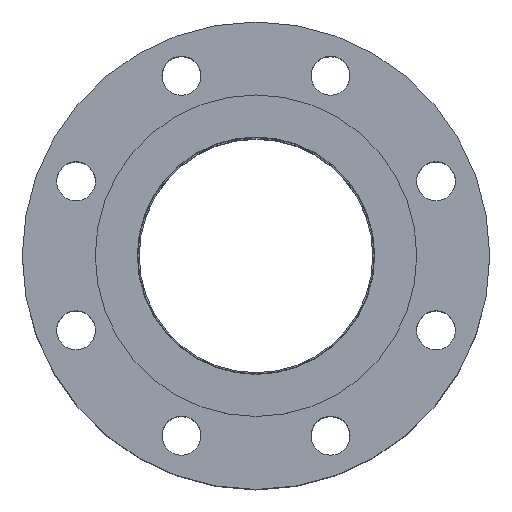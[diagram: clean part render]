
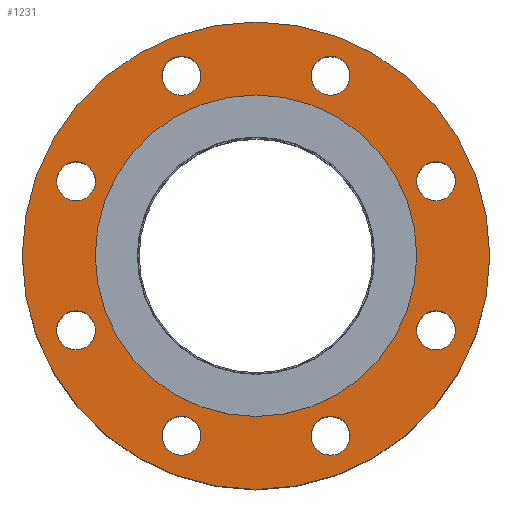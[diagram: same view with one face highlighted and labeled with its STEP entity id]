
A CAD part, top view. The second image highlights one B-rep face of the part: STEP entity #1231.
In plain terms, the highlighted planar face has unit normal (0, 0, 1).
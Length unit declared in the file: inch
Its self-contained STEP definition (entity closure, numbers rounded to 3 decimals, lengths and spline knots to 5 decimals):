
#84=FACE_BOUND('',#331,.T.);
#85=FACE_BOUND('',#332,.T.);
#86=FACE_BOUND('',#333,.T.);
#87=FACE_BOUND('',#334,.T.);
#88=FACE_BOUND('',#335,.T.);
#89=FACE_BOUND('',#336,.T.);
#90=FACE_BOUND('',#337,.T.);
#91=FACE_BOUND('',#338,.T.);
#92=FACE_BOUND('',#339,.T.);
#134=PLANE('',#1404);
#225=FACE_OUTER_BOUND('',#330,.T.);
#330=EDGE_LOOP('',(#957));
#331=EDGE_LOOP('',(#958));
#332=EDGE_LOOP('',(#959));
#333=EDGE_LOOP('',(#960));
#334=EDGE_LOOP('',(#961));
#335=EDGE_LOOP('',(#962));
#336=EDGE_LOOP('',(#963));
#337=EDGE_LOOP('',(#964));
#338=EDGE_LOOP('',(#965));
#339=EDGE_LOOP('',(#966));
#487=CIRCLE('',#1359,0.375);
#489=CIRCLE('',#1362,0.375);
#491=CIRCLE('',#1365,0.375);
#493=CIRCLE('',#1368,0.375);
#495=CIRCLE('',#1371,0.375);
#497=CIRCLE('',#1374,0.375);
#499=CIRCLE('',#1377,0.375);
#501=CIRCLE('',#1380,0.375);
#514=CIRCLE('',#1399,3.095);
#516=CIRCLE('',#1403,4.5);
#627=VERTEX_POINT('',#2134);
#629=VERTEX_POINT('',#2140);
#631=VERTEX_POINT('',#2146);
#633=VERTEX_POINT('',#2152);
#635=VERTEX_POINT('',#2158);
#637=VERTEX_POINT('',#2164);
#639=VERTEX_POINT('',#2170);
#641=VERTEX_POINT('',#2176);
#652=VERTEX_POINT('',#2208);
#654=VERTEX_POINT('',#2215);
#731=EDGE_CURVE('',#627,#627,#487,.T.);
#734=EDGE_CURVE('',#629,#629,#489,.T.);
#737=EDGE_CURVE('',#631,#631,#491,.T.);
#740=EDGE_CURVE('',#633,#633,#493,.T.);
#743=EDGE_CURVE('',#635,#635,#495,.T.);
#746=EDGE_CURVE('',#637,#637,#497,.T.);
#749=EDGE_CURVE('',#639,#639,#499,.T.);
#752=EDGE_CURVE('',#641,#641,#501,.T.);
#768=EDGE_CURVE('',#652,#652,#514,.T.);
#770=EDGE_CURVE('',#654,#654,#516,.T.);
#957=ORIENTED_EDGE('',*,*,#770,.T.);
#958=ORIENTED_EDGE('',*,*,#731,.T.);
#959=ORIENTED_EDGE('',*,*,#734,.T.);
#960=ORIENTED_EDGE('',*,*,#737,.T.);
#961=ORIENTED_EDGE('',*,*,#740,.T.);
#962=ORIENTED_EDGE('',*,*,#743,.T.);
#963=ORIENTED_EDGE('',*,*,#746,.T.);
#964=ORIENTED_EDGE('',*,*,#749,.T.);
#965=ORIENTED_EDGE('',*,*,#752,.T.);
#966=ORIENTED_EDGE('',*,*,#768,.T.);
#1231=ADVANCED_FACE('',(#225,#84,#85,#86,#87,#88,#89,#90,#91,#92),#134,
 .T.);
#1359=AXIS2_PLACEMENT_3D('',#2135,#1615,#1616);
#1362=AXIS2_PLACEMENT_3D('',#2141,#1622,#1623);
#1365=AXIS2_PLACEMENT_3D('',#2147,#1629,#1630);
#1368=AXIS2_PLACEMENT_3D('',#2153,#1636,#1637);
#1371=AXIS2_PLACEMENT_3D('',#2159,#1643,#1644);
#1374=AXIS2_PLACEMENT_3D('',#2165,#1650,#1651);
#1377=AXIS2_PLACEMENT_3D('',#2171,#1657,#1658);
#1380=AXIS2_PLACEMENT_3D('',#2177,#1664,#1665);
#1399=AXIS2_PLACEMENT_3D('',#2210,#1705,#1706);
#1403=AXIS2_PLACEMENT_3D('',#2216,#1713,#1714);
#1404=AXIS2_PLACEMENT_3D('',#2218,#1716,#1717);
#1615=DIRECTION('center_axis',(0.,0.,-1.));
#1616=DIRECTION('ref_axis',(0.707,-0.707,0.));
#1622=DIRECTION('center_axis',(0.,0.,-1.));
#1623=DIRECTION('ref_axis',(0.,-1.,0.));
#1629=DIRECTION('center_axis',(0.,0.,-1.));
#1630=DIRECTION('ref_axis',(-0.707,-0.707,0.));
#1636=DIRECTION('center_axis',(0.,0.,-1.));
#1637=DIRECTION('ref_axis',(-1.,0.,0.));
#1643=DIRECTION('center_axis',(0.,0.,-1.));
#1644=DIRECTION('ref_axis',(-0.707,0.707,0.));
#1650=DIRECTION('center_axis',(0.,0.,-1.));
#1651=DIRECTION('ref_axis',(0.,1.,0.));
#1657=DIRECTION('center_axis',(0.,0.,-1.));
#1658=DIRECTION('ref_axis',(0.707,0.707,0.));
#1664=DIRECTION('center_axis',(0.,0.,-1.));
#1665=DIRECTION('ref_axis',(1.,0.,0.));
#1705=DIRECTION('center_axis',(0.,0.,-1.));
#1706=DIRECTION('ref_axis',(0.,1.,0.));
#1713=DIRECTION('center_axis',(0.,0.,1.));
#1714=DIRECTION('ref_axis',(1.,0.,0.));
#1716=DIRECTION('center_axis',(0.,0.,1.));
#1717=DIRECTION('ref_axis',(1.,0.,0.));
#2134=CARTESIAN_POINT('',(1.1699,3.72971,0.44));
#2135=CARTESIAN_POINT('Origin',(1.43506,3.46455,0.44));
#2140=CARTESIAN_POINT('',(3.46455,1.81006,0.44));
#2141=CARTESIAN_POINT('Origin',(3.46455,1.43506,0.44));
#2146=CARTESIAN_POINT('',(3.72971,-1.1699,0.44));
#2147=CARTESIAN_POINT('Origin',(3.46455,-1.43506,0.44));
#2152=CARTESIAN_POINT('',(1.81006,-3.46455,0.44));
#2153=CARTESIAN_POINT('Origin',(1.43506,-3.46455,0.44));
#2158=CARTESIAN_POINT('',(-1.1699,-3.72971,0.44));
#2159=CARTESIAN_POINT('Origin',(-1.43506,-3.46455,0.44));
#2164=CARTESIAN_POINT('',(-3.46455,-1.81006,0.44));
#2165=CARTESIAN_POINT('Origin',(-3.46455,-1.43506,0.44));
#2170=CARTESIAN_POINT('',(-3.72971,1.1699,0.44));
#2171=CARTESIAN_POINT('Origin',(-3.46455,1.43506,0.44));
#2176=CARTESIAN_POINT('',(-1.81006,3.46455,0.44));
#2177=CARTESIAN_POINT('Origin',(-1.43506,3.46455,0.44));
#2208=CARTESIAN_POINT('',(0.,-3.095,0.44));
#2210=CARTESIAN_POINT('Origin',(0.,0.,0.44));
#2215=CARTESIAN_POINT('',(0.,-4.5,0.44));
#2216=CARTESIAN_POINT('Origin',(0.,0.,0.44));
#2218=CARTESIAN_POINT('Origin',(0.,2.285,0.44));
